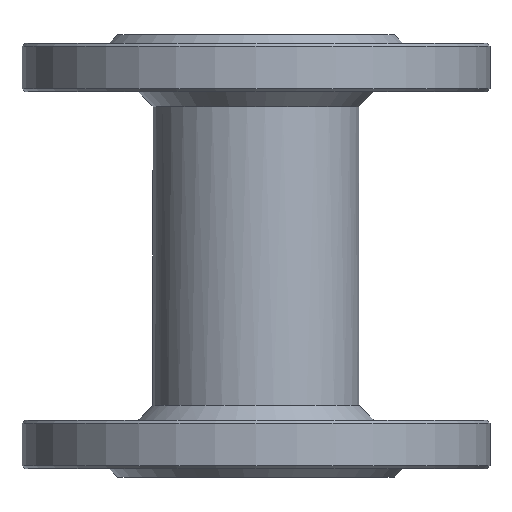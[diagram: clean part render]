
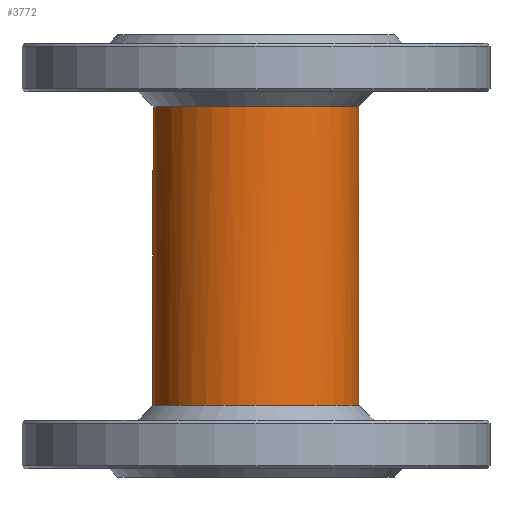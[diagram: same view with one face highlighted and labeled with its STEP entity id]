
A CAD part, front view. The second image highlights one B-rep face of the part: STEP entity #3772.
In plain terms, the highlighted cylindrical face has radius 35 mm (diameter 70 mm), a full revolution.
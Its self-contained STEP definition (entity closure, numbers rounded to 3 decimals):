
#2269=FACE_BOUND('',#5672,.T.);
#2270=FACE_BOUND('',#5673,.T.);
#2271=FACE_BOUND('',#5674,.T.);
#2501=CYLINDRICAL_SURFACE('',#16589,35.);
#2899=CIRCLE('',#16587,35.);
#2900=CIRCLE('',#16588,35.);
#3772=ADVANCED_FACE('',(#2269,#2270,#2271),#2501,.T.);
#5672=EDGE_LOOP('',(#9959));
#5673=EDGE_LOOP('',(#9960));
#5674=EDGE_LOOP('',(#9961,#9962,#9963,#9964));
#6510=B_SPLINE_CURVE_WITH_KNOTS('',3,(#33720,#33721,#33722,#33723,#33724,
#33725),.UNSPECIFIED.,.F.,.F.,(4,2,4),(0.,0.5,1.),.UNSPECIFIED.);
#6511=B_SPLINE_CURVE_WITH_KNOTS('',3,(#33730,#33731,#33732,#33733,#33734,
#33735),.UNSPECIFIED.,.F.,.F.,(4,2,4),(0.,0.5,1.),.UNSPECIFIED.);
#9959=ORIENTED_EDGE('',*,*,#13559,.T.);
#9960=ORIENTED_EDGE('',*,*,#13560,.T.);
#9961=ORIENTED_EDGE('',*,*,#13561,.T.);
#9962=ORIENTED_EDGE('',*,*,#13562,.T.);
#9963=ORIENTED_EDGE('',*,*,#13563,.T.);
#9964=ORIENTED_EDGE('',*,*,#13564,.T.);
#11645=VERTEX_POINT('',#33717);
#11646=VERTEX_POINT('',#33719);
#11647=VERTEX_POINT('',#33726);
#11648=VERTEX_POINT('',#33727);
#11649=VERTEX_POINT('',#33729);
#11650=VERTEX_POINT('',#33736);
#13559=EDGE_CURVE('',#11645,#11645,#2899,.T.);
#13560=EDGE_CURVE('',#11646,#11646,#2900,.T.);
#13561=EDGE_CURVE('',#11647,#11648,#6510,.T.);
#13562=EDGE_CURVE('',#11648,#11649,#14637,.T.);
#13563=EDGE_CURVE('',#11649,#11650,#6511,.T.);
#13564=EDGE_CURVE('',#11650,#11647,#14638,.T.);
#14637=LINE('',#33728,#15652);
#14638=LINE('',#33737,#15653);
#15652=VECTOR('',#19577,1.);
#15653=VECTOR('',#19578,1.);
#16587=AXIS2_PLACEMENT_3D('',#33716,#19573,#19574);
#16588=AXIS2_PLACEMENT_3D('',#33718,#19575,#19576);
#16589=AXIS2_PLACEMENT_3D('',#33738,#19579,#19580);
#19573=DIRECTION('',(0.,0.,1.));
#19574=DIRECTION('',(0.,-1.,0.));
#19575=DIRECTION('',(0.,0.,-1.));
#19576=DIRECTION('',(-0.707,0.707,0.));
#19577=DIRECTION('',(0.,0.,1.));
#19578=DIRECTION('',(0.,0.,-1.));
#19579=DIRECTION('',(0.,0.,1.));
#19580=DIRECTION('',(-0.707,0.707,0.));
#33716=CARTESIAN_POINT('',(-0.016,-17.5,-41.6));
#33717=CARTESIAN_POINT('',(-0.016,-52.5,-41.6));
#33718=CARTESIAN_POINT('',(-0.016,-17.5,59.6));
#33719=CARTESIAN_POINT('',(-24.764,7.249,59.6));
#33720=CARTESIAN_POINT('',(-8.322,16.5,-10.76));
#33721=CARTESIAN_POINT('',(-6.071,17.05,-12.784));
#33722=CARTESIAN_POINT('',(-3.049,17.5,-13.922));
#33723=CARTESIAN_POINT('',(3.016,17.5,-13.923));
#33724=CARTESIAN_POINT('',(6.04,17.05,-12.784));
#33725=CARTESIAN_POINT('',(8.291,16.5,-10.76));
#33726=CARTESIAN_POINT('',(-8.322,16.5,-10.76));
#33727=CARTESIAN_POINT('',(8.291,16.5,-10.76));
#33728=CARTESIAN_POINT('',(8.291,16.5,-36.6));
#33729=CARTESIAN_POINT('',(8.291,16.5,6.76));
#33730=CARTESIAN_POINT('',(8.291,16.5,6.76));
#33731=CARTESIAN_POINT('',(6.04,17.05,8.784));
#33732=CARTESIAN_POINT('',(3.017,17.5,9.922));
#33733=CARTESIAN_POINT('',(-3.047,17.5,9.923));
#33734=CARTESIAN_POINT('',(-6.071,17.05,8.784));
#33735=CARTESIAN_POINT('',(-8.322,16.5,6.76));
#33736=CARTESIAN_POINT('',(-8.322,16.5,6.76));
#33737=CARTESIAN_POINT('',(-8.322,16.5,-36.6));
#33738=CARTESIAN_POINT('',(-0.016,-17.5,-36.6));
